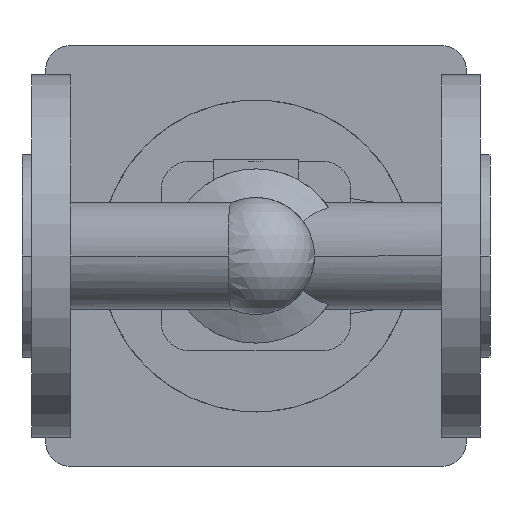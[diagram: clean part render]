
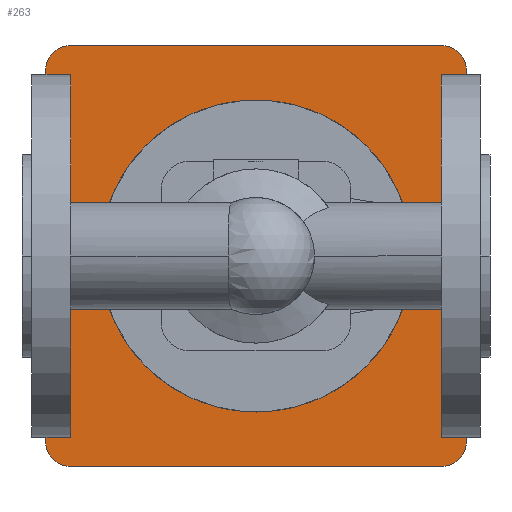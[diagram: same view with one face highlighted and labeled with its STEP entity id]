
A CAD part, front view. The second image highlights one B-rep face of the part: STEP entity #263.
In plain terms, the highlighted planar face has unit normal (0, -1, 0).
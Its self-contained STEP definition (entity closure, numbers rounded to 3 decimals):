
#263 = ADVANCED_FACE( '', ( #603, #604 ), #605, .F. );
#603 = FACE_OUTER_BOUND( '', #969, .T. );
#604 = FACE_BOUND( '', #970, .T. );
#605 = PLANE( '', #971 );
#969 = EDGE_LOOP( '', ( #2116, #2117, #2118, #2119, #2120, #2121, #2122, #2123 ) );
#970 = EDGE_LOOP( '', ( #2124, #2125 ) );
#971 = AXIS2_PLACEMENT_3D( '', #2126, #2127, #2128 );
#2116 = ORIENTED_EDGE( '', *, *, #2645, .F. );
#2117 = ORIENTED_EDGE( '', *, *, #2646, .F. );
#2118 = ORIENTED_EDGE( '', *, *, #2647, .F. );
#2119 = ORIENTED_EDGE( '', *, *, #2648, .F. );
#2120 = ORIENTED_EDGE( '', *, *, #2649, .F. );
#2121 = ORIENTED_EDGE( '', *, *, #2650, .F. );
#2122 = ORIENTED_EDGE( '', *, *, #2651, .F. );
#2123 = ORIENTED_EDGE( '', *, *, #2652, .F. );
#2124 = ORIENTED_EDGE( '', *, *, #2560, .F. );
#2125 = ORIENTED_EDGE( '', *, *, #2653, .F. );
#2126 = CARTESIAN_POINT( '', ( 90., 388.5, 0. ) );
#2127 = DIRECTION( '', ( 0., 1., 0. ) );
#2128 = DIRECTION( '', ( 0., 0., 1. ) );
#2560 = EDGE_CURVE( '', #3135, #3138, #3139, .T. );
#2645 = EDGE_CURVE( '', #3282, #3283, #3284, .T. );
#2646 = EDGE_CURVE( '', #3285, #3282, #3286, .T. );
#2647 = EDGE_CURVE( '', #3287, #3285, #3288, .T. );
#2648 = EDGE_CURVE( '', #3289, #3287, #3290, .T. );
#2649 = EDGE_CURVE( '', #3291, #3289, #3292, .T. );
#2650 = EDGE_CURVE( '', #3293, #3291, #3294, .T. );
#2651 = EDGE_CURVE( '', #3295, #3293, #3296, .T. );
#2652 = EDGE_CURVE( '', #3283, #3295, #3297, .T. );
#2653 = EDGE_CURVE( '', #3138, #3135, #3298, .T. );
#3135 = VERTEX_POINT( '', #4308 );
#3138 = VERTEX_POINT( '', #4312 );
#3139 = CIRCLE( '', #4313, 40. );
#3282 = VERTEX_POINT( '', #4511 );
#3283 = VERTEX_POINT( '', #4512 );
#3284 = CIRCLE( '', #4513, 10. );
#3285 = VERTEX_POINT( '', #4514 );
#3286 = LINE( '', #4515, #4516 );
#3287 = VERTEX_POINT( '', #4517 );
#3288 = CIRCLE( '', #4518, 10. );
#3289 = VERTEX_POINT( '', #4519 );
#3290 = LINE( '', #4520, #4521 );
#3291 = VERTEX_POINT( '', #4522 );
#3292 = CIRCLE( '', #4523, 10. );
#3293 = VERTEX_POINT( '', #4524 );
#3294 = LINE( '', #4525, #4526 );
#3295 = VERTEX_POINT( '', #4527 );
#3296 = CIRCLE( '', #4528, 10. );
#3297 = LINE( '', #4529, #4530 );
#3298 = CIRCLE( '', #4531, 40. );
#4308 = CARTESIAN_POINT( '', ( 50., 388.5, 0. ) );
#4312 = CARTESIAN_POINT( '', ( 130., 388.5, 0. ) );
#4313 = AXIS2_PLACEMENT_3D( '', #5086, #5087, #5088 );
#4511 = CARTESIAN_POINT( '', ( 9., 388.5, 71. ) );
#4512 = CARTESIAN_POINT( '', ( 19., 388.5, 81. ) );
#4513 = AXIS2_PLACEMENT_3D( '', #5231, #5232, #5233 );
#4514 = CARTESIAN_POINT( '', ( 9., 388.5, -71. ) );
#4515 = CARTESIAN_POINT( '', ( 9., 388.5, -71. ) );
#4516 = VECTOR( '', #5234, 1. );
#4517 = CARTESIAN_POINT( '', ( 19., 388.5, -81. ) );
#4518 = AXIS2_PLACEMENT_3D( '', #5235, #5236, #5237 );
#4519 = CARTESIAN_POINT( '', ( 161., 388.5, -81. ) );
#4520 = CARTESIAN_POINT( '', ( 161., 388.5, -81. ) );
#4521 = VECTOR( '', #5238, 1. );
#4522 = CARTESIAN_POINT( '', ( 171., 388.5, -71. ) );
#4523 = AXIS2_PLACEMENT_3D( '', #5239, #5240, #5241 );
#4524 = CARTESIAN_POINT( '', ( 171., 388.5, 71. ) );
#4525 = CARTESIAN_POINT( '', ( 171., 388.5, 71. ) );
#4526 = VECTOR( '', #5242, 1. );
#4527 = CARTESIAN_POINT( '', ( 161., 388.5, 81. ) );
#4528 = AXIS2_PLACEMENT_3D( '', #5243, #5244, #5245 );
#4529 = CARTESIAN_POINT( '', ( 19., 388.5, 81. ) );
#4530 = VECTOR( '', #5246, 1. );
#4531 = AXIS2_PLACEMENT_3D( '', #5247, #5248, #5249 );
#5086 = CARTESIAN_POINT( '', ( 90., 388.5, 0. ) );
#5087 = DIRECTION( '', ( 0., -1., 0. ) );
#5088 = DIRECTION( '', ( -1., 0., 0. ) );
#5231 = CARTESIAN_POINT( '', ( 19., 388.5, 71. ) );
#5232 = DIRECTION( '', ( 0., 1., 0. ) );
#5233 = DIRECTION( '', ( -1., 0., 0. ) );
#5234 = DIRECTION( '', ( 0., 0., 1. ) );
#5235 = CARTESIAN_POINT( '', ( 19., 388.5, -71. ) );
#5236 = DIRECTION( '', ( 0., 1., 0. ) );
#5237 = DIRECTION( '', ( 0., 0., -1. ) );
#5238 = DIRECTION( '', ( -1., 0., 0. ) );
#5239 = CARTESIAN_POINT( '', ( 161., 388.5, -71. ) );
#5240 = DIRECTION( '', ( 0., 1., 0. ) );
#5241 = DIRECTION( '', ( 1., 0., 0. ) );
#5242 = DIRECTION( '', ( 0., 0., -1. ) );
#5243 = CARTESIAN_POINT( '', ( 161., 388.5, 71. ) );
#5244 = DIRECTION( '', ( 0., 1., 0. ) );
#5245 = DIRECTION( '', ( 0., 0., 1. ) );
#5246 = DIRECTION( '', ( 1., 0., 0. ) );
#5247 = CARTESIAN_POINT( '', ( 90., 388.5, 0. ) );
#5248 = DIRECTION( '', ( 0., -1., 0. ) );
#5249 = DIRECTION( '', ( -1., 0., 0. ) );
